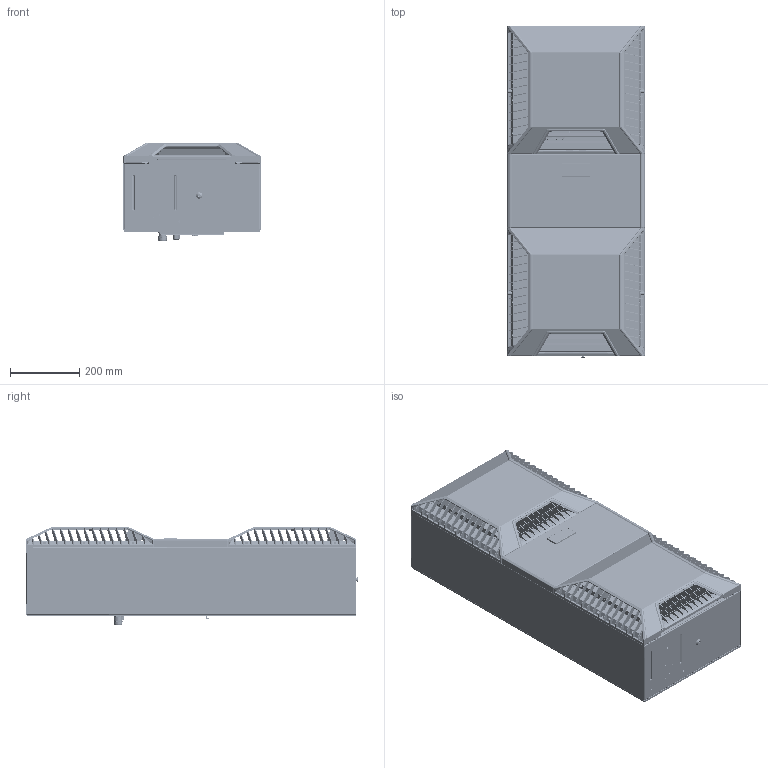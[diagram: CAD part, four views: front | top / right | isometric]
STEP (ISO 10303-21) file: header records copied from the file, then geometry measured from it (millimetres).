
FILE_DESCRIPTION((''),'2;1');
FILE_NAME('SCE-NG5290B460V3_ASM','2024-06-25T08:50:58',('dougp'),('SAGINAW CONTROL & ENGINEERING'),'CREO PARAMETRIC BY PTC INC, 2021284','CREO PARAMETRIC BY PTC INC, 2021284','');
FILE_SCHEMA(('AUTOMOTIVE_DESIGN { 1 0 10303 214 1 1 1 1 }'));
Products named in the file (58): KG8412_CABINET_1; KG8412_CABINET-MNF_ASM_1_ASM; KG8412_BASE_1; BAYONET_DRAINFITTING_BLANK2_1; KG8412_BASE_ASM_1_ASM; KG8412_BOTTOM_STRUT_1; KG8412_ELEC_CONN_BRKT_1; KG8412_ELEC_CONN_BRKT_MNF_ASM_1_ASM; MC-PB7_62H04C-F_1; MC-RJ7_62H04P_1_1; MC-RJ7_62H04P_1_2; MC-RJ7_62H04P_1_ASM; MC-7_62-4-PUSH-IN-ASSEMBLY_ASM__ASM; MC-PB5_08H05C-F_1; MC-RJ5_08H05P_1; MC-5-5-PUSH-IN-ASSEMBLY_ASM_1_ASM; KG8412-STRAIN-RELEIF-BRKT_1; KG8412-STRAIN-RELIEF-BRKT-MNF_A_ASM; CABLE_GLAND_M20_METAL_1; CABLE_GLAND_M16_1; KG8412_ELEC_CONN_BRKT_ASM_1_ASM; POPNUT_M8_HEX_CLOSED_HEAD1-5_ST; POPNUT_M6_HEX_CL_WITH_LIP_1_5MM; KG8512-MOUNTING-BRACKET_1; MC-PB5_08H03C-F_1_1; MC-PB5_08H03C-F_1_2; MC-PB5_08H03C-F_1_ASM; MC-RJ5_08H03P_1; MC-PB5-3P_ASM_1_ASM; KG8412_CABINET_ASM_1_ASM; KG-8512_EVAPORATOR_FINS_1; KG-8512_EVAPORATOR_ASM_1_ASM; KG8412_EVAPORATOR_MODULE_ASM_1_ASM; KG8412_INTERNAL_MODULE_ASM_1_ASM; CAREL_IR33PLUS_SEIFERT_1; CAREL_IR33_PLUS_SEIFERT_ASM_1_ASM; KG8412_CONTROLLER_ASM_1_ASM; KG8412_INT_ACCESS_PANEL_1; KG8412_INT_ACCESS_PANEL-MNF_ASM_ASM; KG8412_INT_ACCESS_PANEL_ASM_1_ASM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
Assembly tree (79 placements, depth 7):
  SCE-NG5290B460V3_ASM
    KG8412_COMPLETE_ASM_1_ASM
      KG8412_CABINET_ASM_1_ASM
        KG8412_CABINET-MNF_ASM_1_ASM
          KG8412_CABINET_1
        KG8412_BASE_ASM_1_ASM
          KG8412_BASE_1
          BAYONET_DRAINFITTING_BLANK2_1
        KG8412_BOTTOM_STRUT_1
        KG8412_ELEC_CONN_BRKT_ASM_1_ASM
          KG8412_ELEC_CONN_BRKT_MNF_ASM_1_ASM
            KG8412_ELEC_CONN_BRKT_1
          MC-7_62-4-PUSH-IN-ASSEMBLY_ASM__ASM
            MC-PB7_62H04C-F_1
            MC-RJ7_62H04P_1_ASM
              MC-RJ7_62H04P_1_1
              MC-RJ7_62H04P_1_2
          MC-5-5-PUSH-IN-ASSEMBLY_ASM_1_ASM
            MC-PB5_08H05C-F_1
            MC-RJ5_08H05P_1
          KG8412-STRAIN-RELIEF-BRKT-MNF_A_ASM
            KG8412-STRAIN-RELEIF-BRKT_1
          CABLE_GLAND_M20_METAL_1
          CABLE_GLAND_M16_1
        POPNUT_M8_HEX_CLOSED_HEAD1-5_ST
        POPNUT_M6_HEX_CL_WITH_LIP_1_5MM  x19
        KG8512-MOUNTING-BRACKET_1
        MC-PB5-3P_ASM_1_ASM
          MC-PB5_08H03C-F_1_ASM
            MC-PB5_08H03C-F_1_1
            MC-PB5_08H03C-F_1_2
          MC-RJ5_08H03P_1
      KG8412_INTERNAL_MODULE_ASM_1_ASM
        KG8412_EVAPORATOR_MODULE_ASM_1_ASM
          KG-8512_EVAPORATOR_ASM_1_ASM
            KG-8512_EVAPORATOR_FINS_1
      KG8412_CONTROLLER_ASM_1_ASM
        CAREL_IR33_PLUS_SEIFERT_ASM_1_ASM
          CAREL_IR33PLUS_SEIFERT_1
      KG8412_INT_ACCESS_PANEL_ASM_1_ASM
        KG8412_INT_ACCESS_PANEL-MNF_ASM_ASM
          KG8412_INT_ACCESS_PANEL_1
      KG8412_COVER-TOP_ASM_1_ASM
        KG8412-GRID-ASSEMBLY_ASM_1_ASM
          NG2-3-GRID-SIDE_1
          NG2-3-GRID-SIDE-BOTTOM_1
          NG2-3-GRID-SIDE-RIGHT_1
          NG2-3-GRID-SIDE-BTM-RIGHT_1
        NG3-FRONT-GRID_1
        KG8412_COVER-TOP_1
      KG8412_COVER-BOTTOM_ASM_1_ASM
        KG8412-GRID-ASSEMBLY_ASM_1_ASM
          NG2-3-GRID-SIDE_1
          NG2-3-GRID-SIDE-BOTTOM_1
          NG2-3-GRID-SIDE-RIGHT_1
          NG2-3-GRID-SIDE-BTM-RIGHT_1
        NG3-FRONT-GRID_1
        KG8412_COVER-BOTTOM_1
      KG8412_MID-COVER_ASM_1_ASM
        KG8412_MID-COVER_1
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Bounding box: 395 x 956.1 x 284.25 mm (x, y, z)
Volume: 4281323.8 mm3; surface area: 4052101.4 mm2
Topology: 59 solids, 88 shells, 12394 faces, 35543 edges, 23134 vertices
Faces by surface type: plane 8683, cylinder 2861, cone 375, bspline 218, torus 106, sphere 88, extrusion 63
Entity records: 391225 total; most frequent: CARTESIAN_POINT 73618, ORIENTED_EDGE 51284, DIRECTION 46532, EDGE_CURVE 25642, PRESENTATION_STYLE_ASSIGNMENT 20459, STYLED_ITEM 20381, VECTOR 19350, LINE 19287
